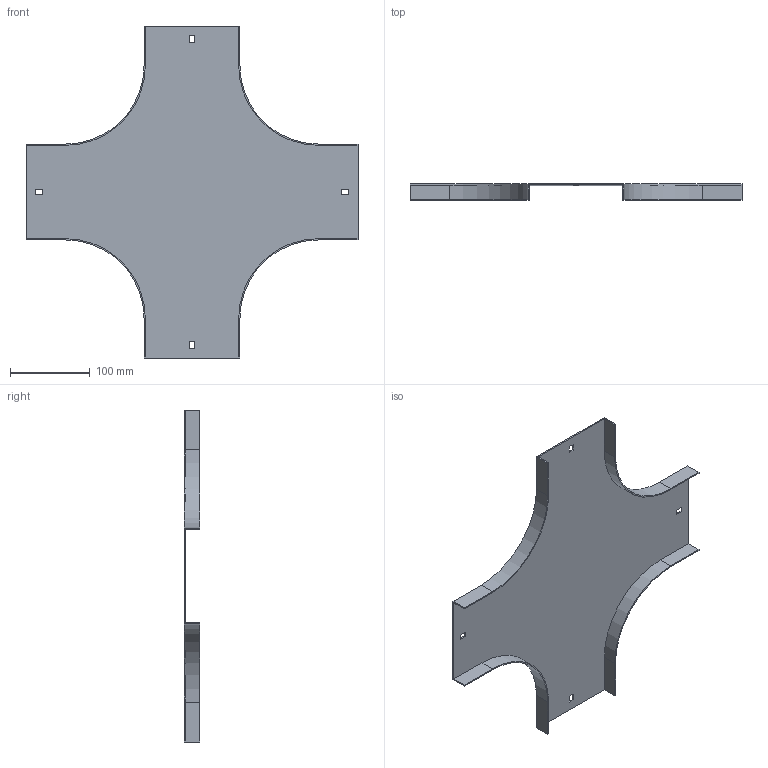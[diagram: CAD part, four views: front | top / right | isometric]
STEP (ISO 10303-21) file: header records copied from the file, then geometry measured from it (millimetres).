
FILE_DESCRIPTION (( 'STEP AP214' ), '1' );
FILE_NAME ('17N1R117.step', '2025-02-21T09:52:41', ( '' ), ( '' ), 'SwSTEP 2.0', 'SolidWorks 2023', '' );
FILE_SCHEMA (( 'AUTOMOTIVE_DESIGN' ));
Length unit declared in the file: millimetre
Products named in the file (1): 17N1R117
Bounding box: 417.5 x 20 x 417.5 mm (x, y, z)
Volume: 169692.7 mm3; surface area: 228916.2 mm2
Topology: 1 solids, 1 shells, 50 faces, 144 edges, 96 vertices
Faces by surface type: plane 42, cylinder 8
Entity records: 1663 total; most frequent: CARTESIAN_POINT 291, ORIENTED_EDGE 288, DIRECTION 262, EDGE_CURVE 144, VECTOR 128, LINE 128, VERTEX_POINT 96, AXIS2_PLACEMENT_3D 67
